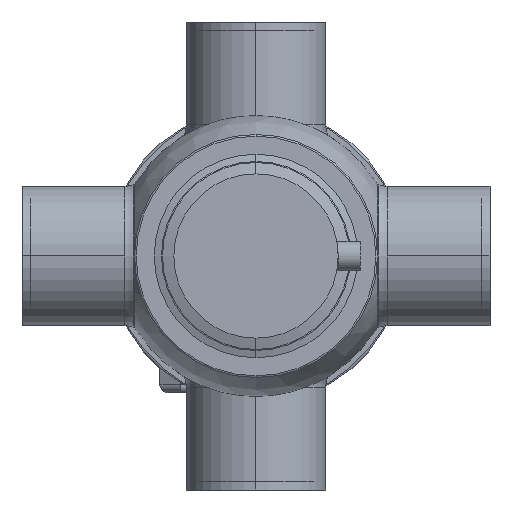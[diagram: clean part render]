
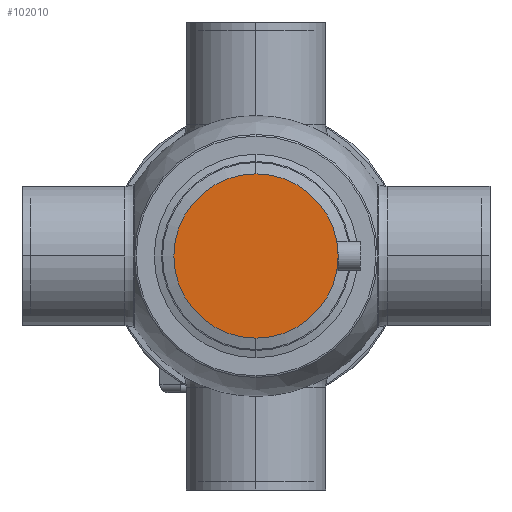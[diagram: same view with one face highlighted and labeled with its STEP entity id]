
A CAD part, front view. The second image highlights one B-rep face of the part: STEP entity #102010.
In plain terms, the highlighted planar face has unit normal (0, -1, 0) as drawn and (0, 0, -1) by its records, which use the part's own axes.
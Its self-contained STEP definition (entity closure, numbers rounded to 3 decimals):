
#99110=CARTESIAN_POINT('',(50.,34.1,-20.));
#99120=VERTEX_POINT('',#99110);
#99300=CARTESIAN_POINT('',(-50.,34.1,-20.));
#99310=VERTEX_POINT('',#99300);
#99340=CARTESIAN_POINT('',(0.,34.1,-20.));
#99350=DIRECTION('',(0.,0.,1.));
#99360=DIRECTION('',(1.,0.,0.));
#99370=AXIS2_PLACEMENT_3D('',#99340,#99350,#99360);
#99380=CIRCLE('',#99370,50.);
#99390=EDGE_CURVE('',#99120,#99310,#99380,.T.);
#101910=CARTESIAN_POINT('',(-48.25,34.1,-20.));
#101920=DIRECTION('',(0.,0.,-1.));
#101930=DIRECTION('',(-1.,0.,0.));
#101940=AXIS2_PLACEMENT_3D('',#101910,#101920,#101930);
#101950=PLANE('',#101940);
#101960=EDGE_CURVE('',#99310,#99120,#99380,.T.);
#101970=ORIENTED_EDGE('',*,*,#101960,.F.);
#101980=ORIENTED_EDGE('',*,*,#99390,.F.);
#101990=EDGE_LOOP('',(#101980,#101970));
#102000=FACE_OUTER_BOUND('',#101990,.T.);
#102010=ADVANCED_FACE('',(#102000),#101950,.T.);
